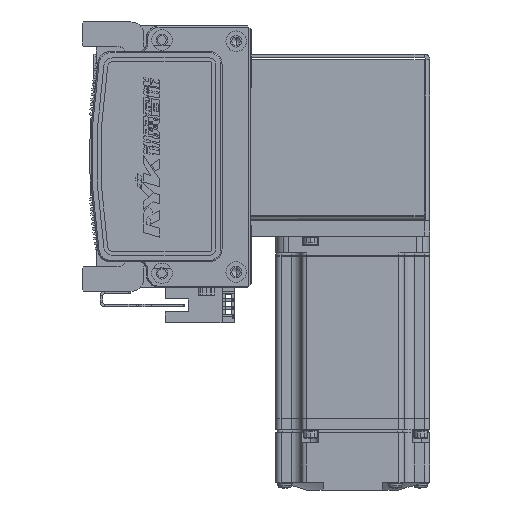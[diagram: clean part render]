
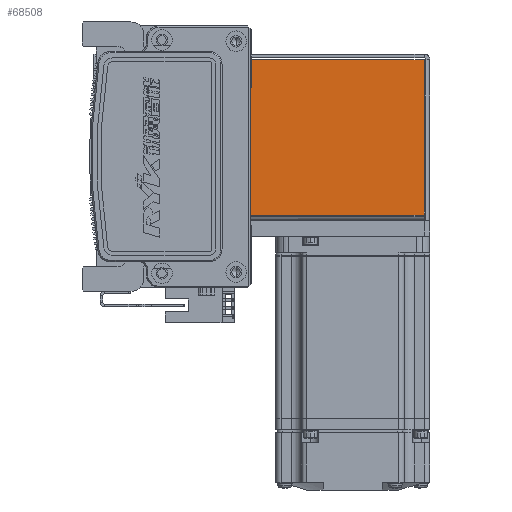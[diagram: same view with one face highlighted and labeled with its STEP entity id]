
A CAD part, left-side view. The second image highlights one B-rep face of the part: STEP entity #68508.
In plain terms, the highlighted planar face has unit normal (-1, 0, 0) as drawn and (0, 0, -1) by its records, which use the part's own axes.
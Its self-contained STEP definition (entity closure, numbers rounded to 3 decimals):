
#1045 = DIRECTION ( 'NONE',  ( 1., 0., 0. ) ) ;
#1482 = CARTESIAN_POINT ( 'NONE',  ( -30.293, 0., -35. ) ) ;
#3719 = AXIS2_PLACEMENT_3D ( 'NONE', #56198, #22013, #74241 ) ;
#4290 = VERTEX_POINT ( 'NONE', #62635 ) ;
#13537 = LINE ( 'NONE', #67207, #20799 ) ;
#15191 = EDGE_CURVE ( 'NONE', #65957, #55474, #53975, .T. ) ;
#17072 = EDGE_LOOP ( 'NONE', ( #61417, #52177, #74929, #39326 ) ) ;
#17074 = LINE ( 'NONE', #1482, #38977 ) ;
#20799 = VECTOR ( 'NONE', #43756, 1000. ) ;
#22013 = DIRECTION ( 'NONE',  ( 0., 0., 1. ) ) ;
#25281 = VERTEX_POINT ( 'NONE', #31182 ) ;
#31182 = CARTESIAN_POINT ( 'NONE',  ( -30.293, 72.5, -35. ) ) ;
#38977 = VECTOR ( 'NONE', #59294, 1000. ) ;
#39326 = ORIENTED_EDGE ( 'NONE', *, *, #66222, .T. ) ;
#39372 = EDGE_CURVE ( 'NONE', #4290, #55474, #13537, .T. ) ;
#39795 = LINE ( 'NONE', #67282, #47061 ) ;
#41867 = CARTESIAN_POINT ( 'NONE',  ( -30.293, 0.737, -35. ) ) ;
#43756 = DIRECTION ( 'NONE',  ( 0., -1., 0. ) ) ;
#46686 = CARTESIAN_POINT ( 'NONE',  ( 30.263, 0.737, -35. ) ) ;
#46840 = CARTESIAN_POINT ( 'NONE',  ( 32.5, 0.737, -35. ) ) ;
#47061 = VECTOR ( 'NONE', #73115, 1000. ) ;
#52177 = ORIENTED_EDGE ( 'NONE', *, *, #15191, .F. ) ;
#53975 = LINE ( 'NONE', #46840, #70453 ) ;
#55474 = VERTEX_POINT ( 'NONE', #46686 ) ;
#56198 = CARTESIAN_POINT ( 'NONE',  ( 0., 0., -35. ) ) ;
#59294 = DIRECTION ( 'NONE',  ( 0., 1., 0. ) ) ;
#61417 = ORIENTED_EDGE ( 'NONE', *, *, #39372, .T. ) ;
#62314 = PLANE ( 'NONE',  #3719 ) ;
#62635 = CARTESIAN_POINT ( 'NONE',  ( 30.263, 72.5, -35. ) ) ;
#65445 = EDGE_CURVE ( 'NONE', #65957, #25281, #17074, .T. ) ;
#65957 = VERTEX_POINT ( 'NONE', #41867 ) ;
#66222 = EDGE_CURVE ( 'NONE', #25281, #4290, #39795, .T. ) ;
#67207 = CARTESIAN_POINT ( 'NONE',  ( 30.263, 72.5, -35. ) ) ;
#67282 = CARTESIAN_POINT ( 'NONE',  ( 0., 72.5, -35. ) ) ;
#68508 = ADVANCED_FACE ( 'NONE', ( #73044 ), #62314, .F. ) ;
#70453 = VECTOR ( 'NONE', #1045, 1000. ) ;
#73044 = FACE_OUTER_BOUND ( 'NONE', #17072, .T. ) ;
#73115 = DIRECTION ( 'NONE',  ( 1., 0., 0. ) ) ;
#74241 = DIRECTION ( 'NONE',  ( 0., -1., 0. ) ) ;
#74929 = ORIENTED_EDGE ( 'NONE', *, *, #65445, .T. ) ;
